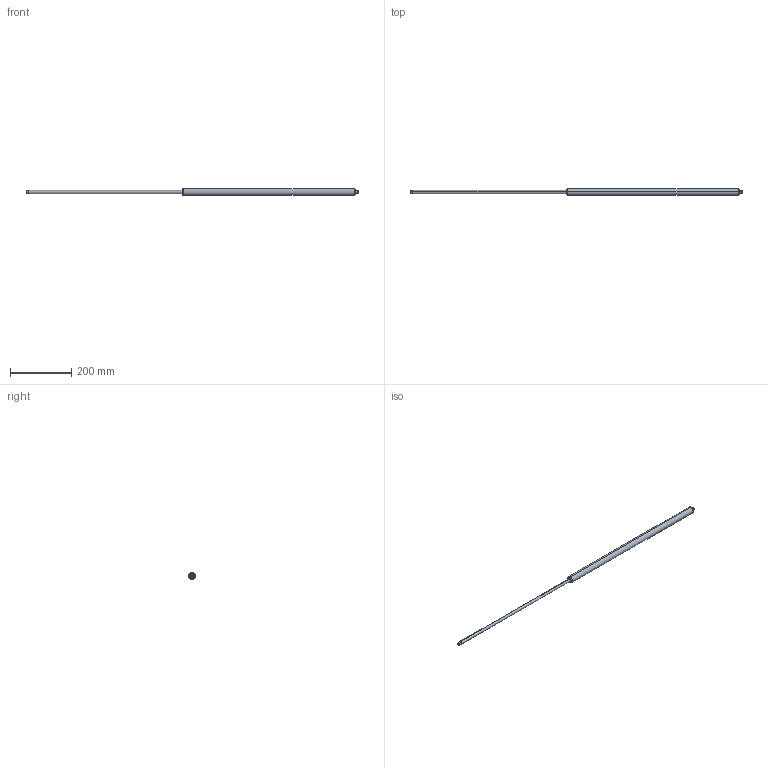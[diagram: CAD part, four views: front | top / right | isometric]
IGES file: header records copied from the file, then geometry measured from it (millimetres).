
Start section: SolidWorks IGES file using analytic representation for surfaces
Bounding box: 1081 x 22 x 22 mm (x, y, z)
Surface area: 55612.7 mm2 (no closed solid volume)
Topology: 0 solids, 0 shells, 25 faces, 336 edges, 336 vertices
Faces by surface type: revolution 16, bspline 9
